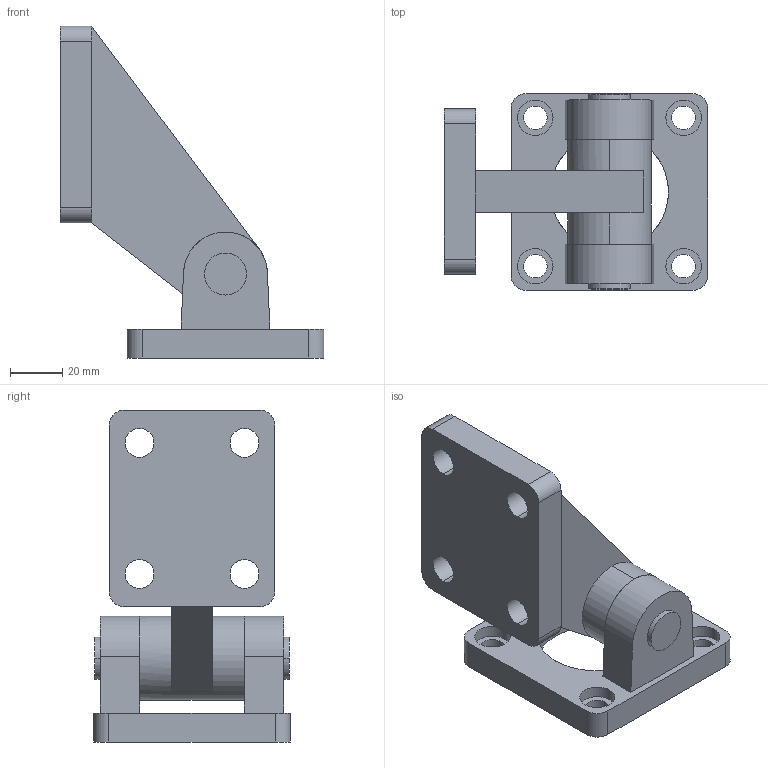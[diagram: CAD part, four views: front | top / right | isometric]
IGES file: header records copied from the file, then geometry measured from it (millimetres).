
Global section: file name: No Iges File Name specified; native system: AutoDesk Inventor R11.0; preprocessor: AutoDesk Inventor Iges Exporter R11.0; author: No Author specified; organization: No Organization specified; date: 20060712.122440; units: millimetre
Bounding box: 100.5 x 75 x 126.5 mm (x, y, z)
Volume: 201333.3 mm3; surface area: 48498.9 mm2
Topology: 2 solids, 2 shells, 81 faces, 207 edges, 136 vertices
Faces by surface type: bspline 34, plane 29, cylinder 18
